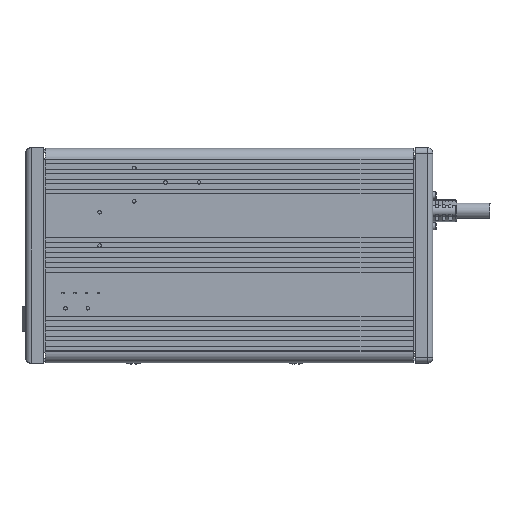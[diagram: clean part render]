
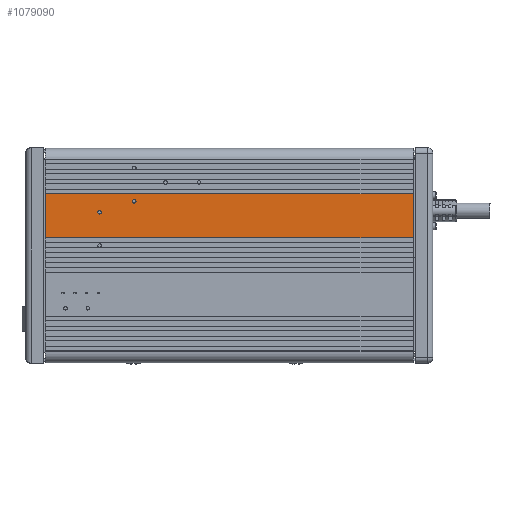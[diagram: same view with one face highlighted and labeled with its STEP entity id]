
A CAD part, front view. The second image highlights one B-rep face of the part: STEP entity #1079090.
In plain terms, the highlighted planar face has unit normal (0, -1, 0) as drawn and (1, 0, 0) by its records, which use the part's own axes.
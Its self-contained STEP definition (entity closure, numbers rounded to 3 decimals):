
#1063160=CARTESIAN_POINT('',(38.193,49.73,0.));
#1063170=VERTEX_POINT('',#1063160);
#1063200=CARTESIAN_POINT('',(38.193,49.73,0.));
#1063210=DIRECTION('',(0.,1.,0.));
#1063220=VECTOR('',#1063210,1.);
#1063230=LINE('',#1063200,#1063220);
#1063240=CARTESIAN_POINT('',(38.193,69.48,0.));
#1063250=VERTEX_POINT('',#1063240);
#1063260=EDGE_CURVE('',#1063170,#1063250,#1063230,.T.);
#1069870=CARTESIAN_POINT('',(38.193,69.48,165.));
#1069880=VERTEX_POINT('',#1069870);
#1069910=CARTESIAN_POINT('',(38.193,69.48,165.));
#1069920=DIRECTION('',(0.,-1.,0.));
#1069930=VECTOR('',#1069920,1.);
#1069940=LINE('',#1069910,#1069930);
#1069950=CARTESIAN_POINT('',(38.193,49.73,165.));
#1069960=VERTEX_POINT('',#1069950);
#1069970=EDGE_CURVE('',#1069880,#1069960,#1069940,.T.);
#1078830=CARTESIAN_POINT('',(38.193,69.48,0.));
#1078840=DIRECTION('',(0.,0.,1.));
#1078850=VECTOR('',#1078840,1.);
#1078860=LINE('',#1078830,#1078850);
#1078870=EDGE_CURVE('',#1063250,#1069880,#1078860,.T.);
#1078930=CARTESIAN_POINT('',(38.193,67.48,0.));
#1078940=DIRECTION('',(1.,-0.,0.));
#1078950=DIRECTION('',(0.,0.,-1.));
#1078960=AXIS2_PLACEMENT_3D('',#1078930,#1078940,#1078950);
#1078970=PLANE('',#1078960);
#1078980=ORIENTED_EDGE('',*,*,#1078870,.T.);
#1078990=ORIENTED_EDGE('',*,*,#1063260,.T.);
#1079000=CARTESIAN_POINT('',(38.193,49.73,0.));
#1079010=DIRECTION('',(0.,0.,1.));
#1079020=VECTOR('',#1079010,1.);
#1079030=LINE('',#1079000,#1079020);
#1079040=EDGE_CURVE('',#1063170,#1069960,#1079030,.T.);
#1079050=ORIENTED_EDGE('',*,*,#1079040,.F.);
#1079060=ORIENTED_EDGE('',*,*,#1069970,.T.);
#1079070=EDGE_LOOP('',(#1079060,#1079050,#1078990,#1078980));
#1079080=FACE_OUTER_BOUND('',#1079070,.T.);
#1079090=ADVANCED_FACE('',(#1079080),#1078970,.T.);
